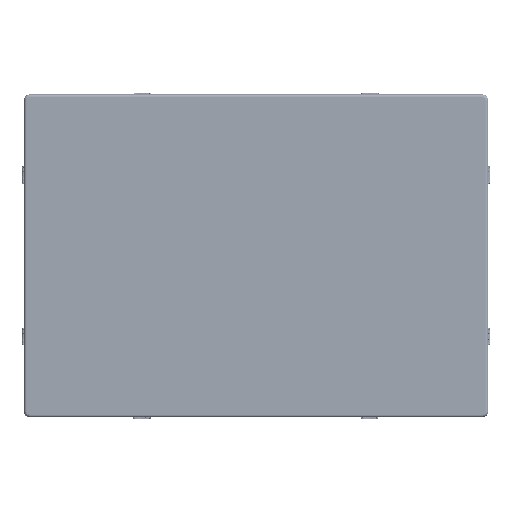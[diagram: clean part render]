
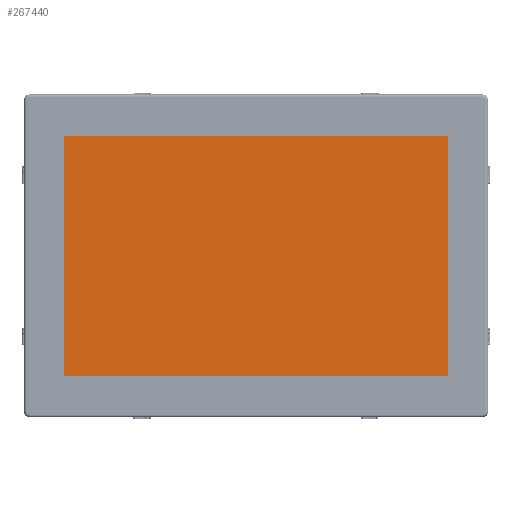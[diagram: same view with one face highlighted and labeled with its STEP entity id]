
A CAD part, top view. The second image highlights one B-rep face of the part: STEP entity #267440.
In plain terms, the highlighted planar face has unit normal (0, 0, 1).
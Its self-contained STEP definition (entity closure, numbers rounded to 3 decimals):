
#18052=LINE('',#401747,#45982);
#18056=LINE('',#401755,#45986);
#18061=LINE('',#401764,#45991);
#18063=LINE('',#401769,#45993);
#18068=LINE('',#401778,#45998);
#18070=LINE('',#401783,#46000);
#18073=LINE('',#401789,#46003);
#18076=LINE('',#401793,#46006);
#45982=VECTOR('',#324674,10.);
#45986=VECTOR('',#324680,10.);
#45991=VECTOR('',#324687,10.);
#45993=VECTOR('',#324693,10.);
#45998=VECTOR('',#324700,10.);
#46000=VECTOR('',#324704,10.);
#46003=VECTOR('',#324709,10.);
#46006=VECTOR('',#324714,10.);
#70854=FACE_OUTER_BOUND('',#88200,.T.);
#88200=EDGE_LOOP('',(#188795,#188796,#188797,#188798,#188799,#188800,#188801,
#188802));
#115126=VERTEX_POINT('',#401744);
#115127=VERTEX_POINT('',#401746);
#115130=VERTEX_POINT('',#401754);
#115133=VERTEX_POINT('',#401762);
#115134=VERTEX_POINT('',#401768);
#115137=VERTEX_POINT('',#401776);
#115139=VERTEX_POINT('',#401782);
#115141=VERTEX_POINT('',#401788);
#142638=EDGE_CURVE('',#115127,#115126,#18052,.T.);
#142642=EDGE_CURVE('',#115130,#115127,#18056,.T.);
#142647=EDGE_CURVE('',#115126,#115133,#18061,.T.);
#142649=EDGE_CURVE('',#115134,#115130,#18063,.T.);
#142654=EDGE_CURVE('',#115133,#115137,#18068,.T.);
#142656=EDGE_CURVE('',#115139,#115134,#18070,.T.);
#142659=EDGE_CURVE('',#115141,#115139,#18073,.T.);
#142662=EDGE_CURVE('',#115137,#115141,#18076,.T.);
#188795=ORIENTED_EDGE('',*,*,#142662,.T.);
#188796=ORIENTED_EDGE('',*,*,#142659,.T.);
#188797=ORIENTED_EDGE('',*,*,#142656,.T.);
#188798=ORIENTED_EDGE('',*,*,#142649,.T.);
#188799=ORIENTED_EDGE('',*,*,#142642,.T.);
#188800=ORIENTED_EDGE('',*,*,#142638,.T.);
#188801=ORIENTED_EDGE('',*,*,#142647,.T.);
#188802=ORIENTED_EDGE('',*,*,#142654,.T.);
#249036=PLANE('',#288253);
#267440=ADVANCED_FACE('',(#70854),#249036,.T.);
#288253=AXIS2_PLACEMENT_3D('',#401794,#324715,#324716);
#324674=DIRECTION('',(1.,0.,0.));
#324680=DIRECTION('',(0.,-1.,0.));
#324687=DIRECTION('',(0.,1.,0.));
#324693=DIRECTION('',(1.,0.,0.));
#324700=DIRECTION('',(1.,0.,0.));
#324704=DIRECTION('',(0.,-1.,0.));
#324709=DIRECTION('',(-1.,0.,0.));
#324714=DIRECTION('',(0.,1.,0.));
#324715=DIRECTION('center_axis',(0.,0.,1.));
#324716=DIRECTION('ref_axis',(1.,0.,0.));
#401744=CARTESIAN_POINT('',(46.11,-91.385,2.202));
#401746=CARTESIAN_POINT('',(26.11,-91.385,2.202));
#401747=CARTESIAN_POINT('',(26.11,-91.385,2.202));
#401754=CARTESIAN_POINT('',(26.11,-81.385,2.202));
#401755=CARTESIAN_POINT('',(26.11,-81.385,2.202));
#401762=CARTESIAN_POINT('',(46.11,-81.385,2.202));
#401764=CARTESIAN_POINT('',(46.11,-91.385,2.202));
#401768=CARTESIAN_POINT('',(-130.31,-81.385,2.202));
#401769=CARTESIAN_POINT('',(-130.31,-81.385,2.202));
#401776=CARTESIAN_POINT('',(130.81,-81.385,2.202));
#401778=CARTESIAN_POINT('',(-130.31,-81.385,2.202));
#401782=CARTESIAN_POINT('',(-130.31,81.815,2.202));
#401783=CARTESIAN_POINT('',(-130.31,81.815,2.202));
#401788=CARTESIAN_POINT('',(130.81,81.815,2.202));
#401789=CARTESIAN_POINT('',(130.81,81.815,2.202));
#401793=CARTESIAN_POINT('',(130.81,-81.385,2.202));
#401794=CARTESIAN_POINT('Origin',(0.25,0.215,2.202));
